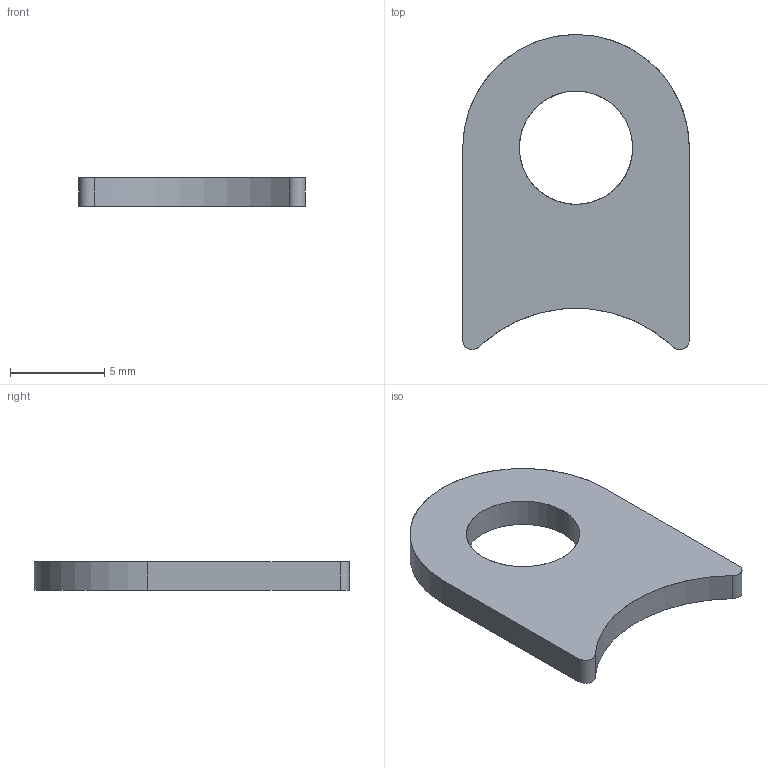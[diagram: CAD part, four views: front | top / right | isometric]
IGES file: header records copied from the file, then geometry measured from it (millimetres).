
Start section: START RECORD GO HERE.
Global section: file name: EN_04010 (chape de tube de remplissage).igs; native system: IBM CATIA IGES - CATIA Version 5 Release 19 ; preprocessor: CATIA Version 5 Release 19 ; author: Martin Kawczynski; organization: DESKTOP-UDLM1FC; date: 20200123.230540; units: millimetre
Bounding box: 12 x 16.69 x 1.5 mm (x, y, z)
Surface area: 388.6 mm2 (no closed solid volume)
Topology: 0 solids, 0 shells, 10 faces, 48 edges, 48 vertices
Faces by surface type: revolution 6, plane 4
